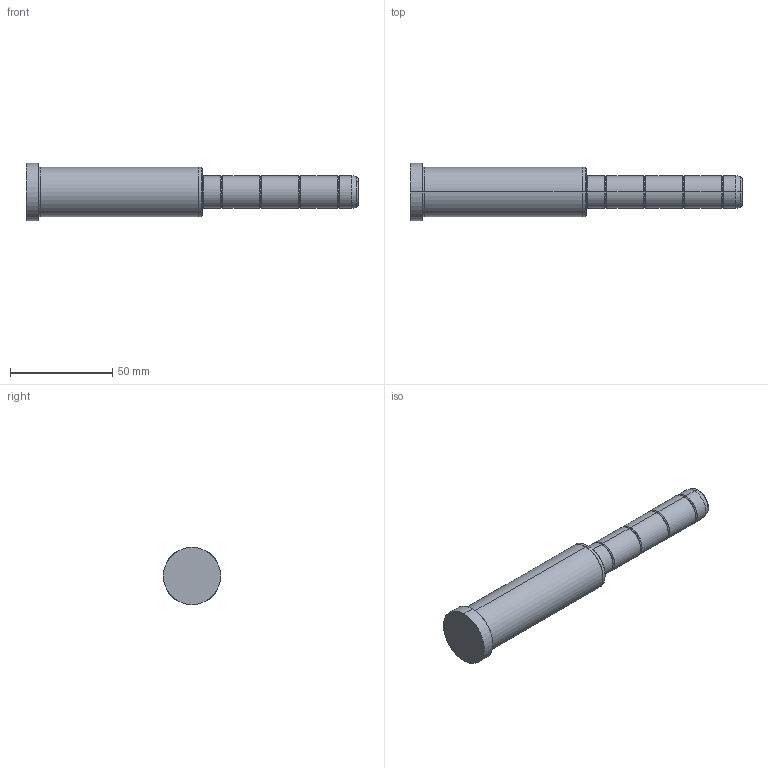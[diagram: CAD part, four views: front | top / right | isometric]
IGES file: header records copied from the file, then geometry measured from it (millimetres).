
Start section: SolidWorks IGES file using analytic representation for surfaces
Global section: file name: C:\Documents and Settings\kalite-mail\Desktop\IGS\D02\16\D02 - 16x86x76.IGS; native system: SolidWorks 2008; preprocessor: SolidWorks 2008; author: kalite-mail; date: 080616.145639; units: millimetre
Bounding box: 162 x 28 x 28 mm (x, y, z)
Surface area: 11635.4 mm2 (no closed solid volume)
Topology: 0 solids, 0 shells, 48 faces, 552 edges, 552 vertices
Faces by surface type: bspline 26, revolution 22
